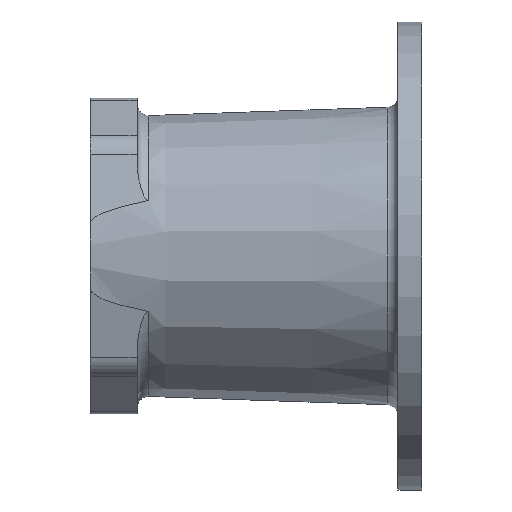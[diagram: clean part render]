
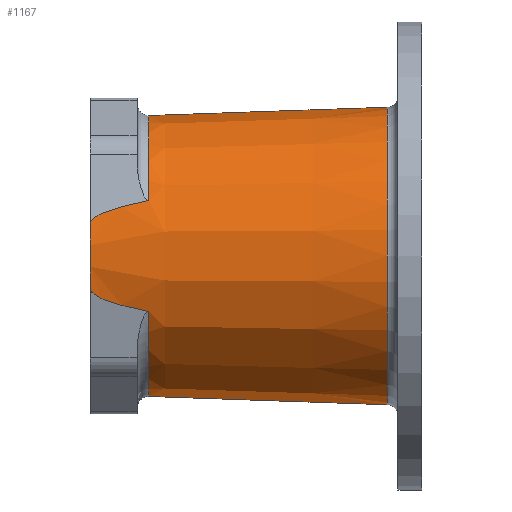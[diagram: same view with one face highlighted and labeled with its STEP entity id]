
A CAD part, left-side view. The second image highlights one B-rep face of the part: STEP entity #1167.
In plain terms, the highlighted conical face has half-angle 2 degrees and reference radius 56.333 mm.
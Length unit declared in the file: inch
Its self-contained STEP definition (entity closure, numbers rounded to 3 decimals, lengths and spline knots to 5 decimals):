
#37 = CARTESIAN_POINT ( 'NONE',  ( -2.10218, 4.96393, 0.74406 ) ) ;
#62 = CARTESIAN_POINT ( 'NONE',  ( -2.15133, 5.30755, 0.53951 ) ) ;
#177 = CARTESIAN_POINT ( 'NONE',  ( -2.15134, 5.30758, -0.53948 ) ) ;
#191 = AXIS2_PLACEMENT_3D ( 'NONE', #3982, #917, #4508 ) ;
#202 = CARTESIAN_POINT ( 'NONE',  ( -2.11267, 5.08578, -0.70039 ) ) ;
#540 = CARTESIAN_POINT ( 'NONE',  ( -2.07125, 4.45898, 0.87279 ) ) ;
#562 = CARTESIAN_POINT ( 'NONE',  ( -2.11273, 5.08646, 0.70013 ) ) ;
#581 = ORIENTED_EDGE ( 'NONE', *, *, #6331, .T. ) ;
#586 = CARTESIAN_POINT ( 'NONE',  ( -2.15645, 5.31, 0.51819 ) ) ;
#651 = VERTEX_POINT ( 'NONE', #1830 ) ;
#698 = CARTESIAN_POINT ( 'NONE',  ( -2.14439, 5.29328, -0.5684 ) ) ;
#727 = CARTESIAN_POINT ( 'NONE',  ( -2.10214, 4.96343, -0.74422 ) ) ;
#917 = DIRECTION ( 'NONE',  ( 0., -1., 0. ) ) ;
#947 = LINE ( 'NONE', #4723, #6269 ) ;
#1080 = CARTESIAN_POINT ( 'NONE',  ( -2.12137, 5.1653, 0.6642 ) ) ;
#1142 = CARTESIAN_POINT ( 'NONE',  ( -2.06715, 4.37372, -0.88983 ) ) ;
#1167 = ADVANCED_FACE ( 'NONE', ( #2847 ), #1316, .T. ) ;
#1218 = CARTESIAN_POINT ( 'NONE',  ( -2.13847, 5.27209, -0.59305 ) ) ;
#1230 = CARTESIAN_POINT ( 'NONE',  ( 0., 4.37372, 2.25054 ) ) ;
#1242 = CARTESIAN_POINT ( 'NONE',  ( -2.09021, 4.79714, -0.79386 ) ) ;
#1316 = CONICAL_SURFACE ( 'NONE', #5602, 2.21784, 0.035 ) ;
#1367 = VERTEX_POINT ( 'NONE', #1142 ) ;
#1431 = CARTESIAN_POINT ( 'NONE',  ( 0., 5.31, 0. ) ) ;
#1436 = ORIENTED_EDGE ( 'NONE', *, *, #2783, .F. ) ;
#1583 = CIRCLE ( 'NONE', #1770, 2.25054 ) ;
#1602 = CARTESIAN_POINT ( 'NONE',  ( -2.12899, 5.2219, 0.6325 ) ) ;
#1616 = AXIS2_PLACEMENT_3D ( 'NONE', #6082, #2972, #6596 ) ;
#1620 = VERTEX_POINT ( 'NONE', #2856 ) ;
#1682 = DIRECTION ( 'NONE',  ( 0., -1., 0. ) ) ;
#1727 = CARTESIAN_POINT ( 'NONE',  ( -2.13341, 5.2475, -0.61409 ) ) ;
#1755 = CARTESIAN_POINT ( 'NONE',  ( -2.07559, 4.54393, -0.8547 ) ) ;
#1761 = ORIENTED_EDGE ( 'NONE', *, *, #4773, .T. ) ;
#1770 = AXIS2_PLACEMENT_3D ( 'NONE', #4772, #1682, #5286 ) ;
#1830 = CARTESIAN_POINT ( 'NONE',  ( 0., 0.55372, 2.38393 ) ) ;
#1939 = DIRECTION ( 'NONE',  ( 0., 0., -1. ) ) ;
#1952 = DIRECTION ( 'NONE',  ( 0., 0., -1. ) ) ;
#2103 = CARTESIAN_POINT ( 'NONE',  ( -2.15645, 5.31, 0.51819 ) ) ;
#2112 = CARTESIAN_POINT ( 'NONE',  ( -2.1351, 5.25643, 0.60707 ) ) ;
#2217 = CARTESIAN_POINT ( 'NONE',  ( -2.15645, 5.31, -0.51819 ) ) ;
#2241 = CARTESIAN_POINT ( 'NONE',  ( -2.12893, 5.22071, -0.63272 ) ) ;
#2263 = CARTESIAN_POINT ( 'NONE',  ( -2.06715, 4.37372, -0.88983 ) ) ;
#2419 = CARTESIAN_POINT ( 'NONE',  ( -2.15645, 5.31, -0.51819 ) ) ;
#2597 = CARTESIAN_POINT ( 'NONE',  ( -2.0851, 4.71328, 0.81514 ) ) ;
#2622 = CARTESIAN_POINT ( 'NONE',  ( -2.14041, 5.28003, 0.58497 ) ) ;
#2668 = DIRECTION ( 'NONE',  ( 0., -0.999, -0.035 ) ) ;
#2768 = CARTESIAN_POINT ( 'NONE',  ( -2.12494, 5.19281, -0.64935 ) ) ;
#2783 = EDGE_CURVE ( 'NONE', #2896, #651, #3921, .T. ) ;
#2798 = CIRCLE ( 'NONE', #6705, 2.21784 ) ;
#2847 = FACE_OUTER_BOUND ( 'NONE', #3997, .T. ) ;
#2856 = CARTESIAN_POINT ( 'NONE',  ( 0., 4.37372, -2.25054 ) ) ;
#2896 = VERTEX_POINT ( 'NONE', #1230 ) ;
#2972 = DIRECTION ( 'NONE',  ( 0., 1., 0. ) ) ;
#3129 = CARTESIAN_POINT ( 'NONE',  ( -2.09905, 4.92252, 0.75707 ) ) ;
#3152 = CARTESIAN_POINT ( 'NONE',  ( -2.14664, 5.29925, 0.55905 ) ) ;
#3165 = EDGE_CURVE ( 'NONE', #6630, #4118, #2798, .T. ) ;
#3263 = CARTESIAN_POINT ( 'NONE',  ( -2.15385, 5.31, -0.52902 ) ) ;
#3275 = CIRCLE ( 'NONE', #191, 2.25054 ) ;
#3285 = CARTESIAN_POINT ( 'NONE',  ( -2.119, 5.14487, -0.67404 ) ) ;
#3460 = CIRCLE ( 'NONE', #1616, 2.38393 ) ;
#3467 = B_SPLINE_CURVE_WITH_KNOTS ( 'NONE', 3,
 ( #6220, #540, #5719, #2597, #6236, #3129, #37, #3638, #562, #4157, #1080, #4681, #1602, #5199, #2112, #5747, #2622, #6261, #3152, #62, #3661, #586 ),
 .UNSPECIFIED., .F., .F.,
 ( 4, 2, 2, 2, 2, 2, 2, 2, 2, 2, 4 ),
 ( -0.00484, 0.00179, 0.00842, 0.01174, 0.01505, 0.01671, 0.01837, 0.0192, 0.02003, 0.02086, 0.02169 ),
 .UNSPECIFIED. ) ;
#3627 = EDGE_CURVE ( 'NONE', #2896, #5502, #1583, .T. ) ;
#3638 = CARTESIAN_POINT ( 'NONE',  ( -2.10903, 5.04592, 0.71555 ) ) ;
#3661 = CARTESIAN_POINT ( 'NONE',  ( -2.15388, 5.31, 0.52892 ) ) ;
#3714 = ORIENTED_EDGE ( 'NONE', *, *, #5971, .T. ) ;
#3771 = CARTESIAN_POINT ( 'NONE',  ( -2.14656, 5.29909, -0.55937 ) ) ;
#3794 = CARTESIAN_POINT ( 'NONE',  ( -2.10898, 5.04536, -0.71576 ) ) ;
#3868 = VERTEX_POINT ( 'NONE', #4970 ) ;
#3921 = LINE ( 'NONE', #4182, #5119 ) ;
#3982 = CARTESIAN_POINT ( 'NONE',  ( 0., 4.37372, 0. ) ) ;
#3997 = EDGE_LOOP ( 'NONE', ( #1436, #5037, #3714, #6136, #5846, #581, #5063, #1761 ) ) ;
#4118 = VERTEX_POINT ( 'NONE', #2419 ) ;
#4157 = CARTESIAN_POINT ( 'NONE',  ( -2.11911, 5.14581, 0.6736 ) ) ;
#4182 = CARTESIAN_POINT ( 'NONE',  ( 0., 5.31, 2.21784 ) ) ;
#4289 = CARTESIAN_POINT ( 'NONE',  ( -2.14033, 5.27973, -0.58531 ) ) ;
#4313 = CARTESIAN_POINT ( 'NONE',  ( -2.09901, 4.92198, -0.75723 ) ) ;
#4366 = EDGE_CURVE ( 'NONE', #4118, #1367, #5659, .T. ) ;
#4508 = DIRECTION ( 'NONE',  ( 0., 0., 1. ) ) ;
#4681 = CARTESIAN_POINT ( 'NONE',  ( -2.12631, 5.20334, 0.64364 ) ) ;
#4723 = CARTESIAN_POINT ( 'NONE',  ( 0., 5.31, -2.21784 ) ) ;
#4772 = CARTESIAN_POINT ( 'NONE',  ( 0., 4.37372, 0. ) ) ;
#4773 = EDGE_CURVE ( 'NONE', #3868, #651, #3460, .T. ) ;
#4817 = CARTESIAN_POINT ( 'NONE',  ( -2.13501, 5.256, -0.60742 ) ) ;
#4844 = CARTESIAN_POINT ( 'NONE',  ( -2.08509, 4.71303, -0.8152 ) ) ;
#4970 = CARTESIAN_POINT ( 'NONE',  ( 0., 0.55372, -2.38393 ) ) ;
#5025 = DIRECTION ( 'NONE',  ( 0., -1., 0. ) ) ;
#5037 = ORIENTED_EDGE ( 'NONE', *, *, #3627, .T. ) ;
#5061 = CARTESIAN_POINT ( 'NONE',  ( 0., 5.31, 0. ) ) ;
#5063 = ORIENTED_EDGE ( 'NONE', *, *, #6709, .T. ) ;
#5119 = VECTOR ( 'NONE', #6294, 39.37008 ) ;
#5199 = CARTESIAN_POINT ( 'NONE',  ( -2.1335, 5.24801, 0.6137 ) ) ;
#5286 = DIRECTION ( 'NONE',  ( 0., 0., 1. ) ) ;
#5341 = CARTESIAN_POINT ( 'NONE',  ( -2.13037, 5.22986, -0.62674 ) ) ;
#5364 = CARTESIAN_POINT ( 'NONE',  ( -2.07124, 4.45893, -0.8728 ) ) ;
#5502 = VERTEX_POINT ( 'NONE', #5593 ) ;
#5593 = CARTESIAN_POINT ( 'NONE',  ( -2.06715, 4.37372, 0.88983 ) ) ;
#5602 = AXIS2_PLACEMENT_3D ( 'NONE', #5061, #6620, #1952 ) ;
#5659 = B_SPLINE_CURVE_WITH_KNOTS ( 'NONE', 3,
 ( #2217, #3263, #177, #3771, #698, #4289, #1218, #4817, #1727, #5341, #2241, #5881, #2768, #6403, #3285, #202, #3794, #727, #4313, #1242, #4844, #1755, #5364, #2263 ),
 .UNSPECIFIED., .F., .F.,
 ( 4, 2, 2, 2, 2, 2, 2, 2, 2, 2, 2, 4 ),
 ( 0., 0.00083, 0.00167, 0.0025, 0.00333, 0.00417, 0.005, 0.00667, 0.01, 0.01334, 0.02001, 0.02668 ),
 .UNSPECIFIED. ) ;
#5719 = CARTESIAN_POINT ( 'NONE',  ( -2.0756, 4.54403, 0.85468 ) ) ;
#5747 = CARTESIAN_POINT ( 'NONE',  ( -2.13854, 5.27242, 0.59273 ) ) ;
#5846 = ORIENTED_EDGE ( 'NONE', *, *, #4366, .T. ) ;
#5881 = CARTESIAN_POINT ( 'NONE',  ( -2.12622, 5.2022, -0.64401 ) ) ;
#5971 = EDGE_CURVE ( 'NONE', #5502, #6630, #3467, .T. ) ;
#6082 = CARTESIAN_POINT ( 'NONE',  ( 0., 0.55372, 0. ) ) ;
#6136 = ORIENTED_EDGE ( 'NONE', *, *, #3165, .T. ) ;
#6220 = CARTESIAN_POINT ( 'NONE',  ( -2.06715, 4.37372, 0.88983 ) ) ;
#6236 = CARTESIAN_POINT ( 'NONE',  ( -2.09024, 4.79754, 0.79376 ) ) ;
#6261 = CARTESIAN_POINT ( 'NONE',  ( -2.14443, 5.29339, 0.56822 ) ) ;
#6269 = VECTOR ( 'NONE', #2668, 39.37008 ) ;
#6294 = DIRECTION ( 'NONE',  ( 0., -0.999, 0.035 ) ) ;
#6331 = EDGE_CURVE ( 'NONE', #1367, #1620, #3275, .T. ) ;
#6403 = CARTESIAN_POINT ( 'NONE',  ( -2.12125, 5.16429, -0.6647 ) ) ;
#6596 = DIRECTION ( 'NONE',  ( 0., 0., -1. ) ) ;
#6620 = DIRECTION ( 'NONE',  ( 0., -1., 0. ) ) ;
#6630 = VERTEX_POINT ( 'NONE', #2103 ) ;
#6705 = AXIS2_PLACEMENT_3D ( 'NONE', #1431, #5025, #1939 ) ;
#6709 = EDGE_CURVE ( 'NONE', #1620, #3868, #947, .T. ) ;
